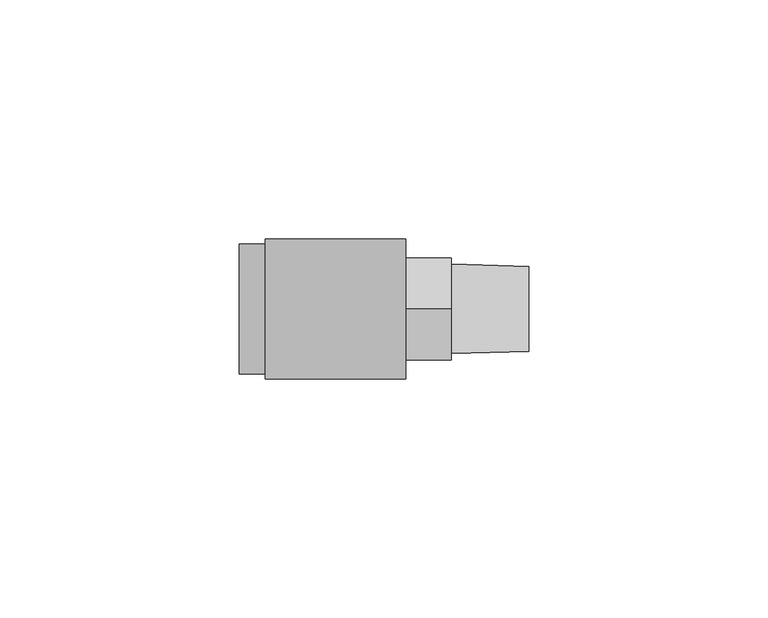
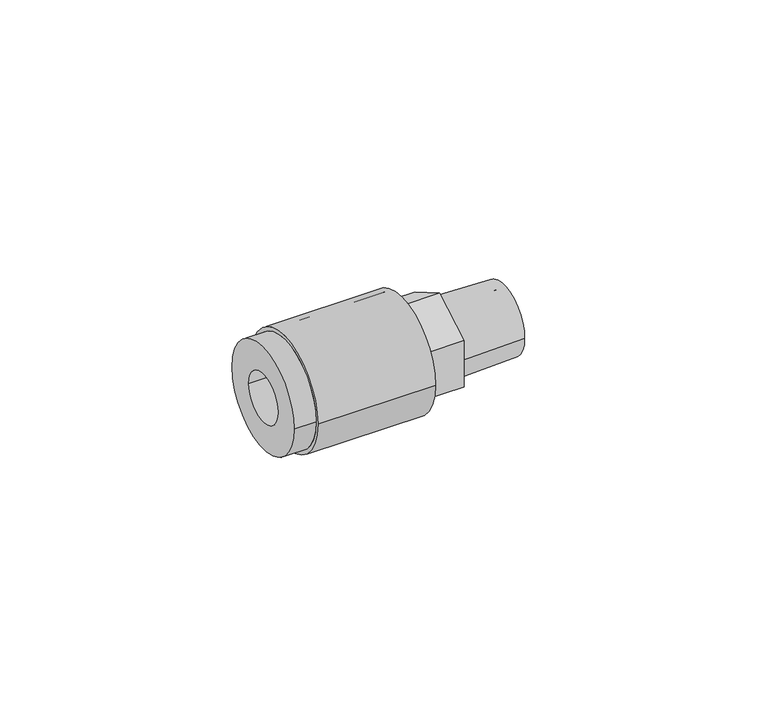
"""IFC4 building model written with IfcOpenShell, lengths in millimetres: pipe fitting geometry, Aquatherm - Fusion Outlet Transition Male : POTABLE BRASS - HEX."""

from ifc_helpers import new_model, si_unit, frame, origin, place, context, project, spatial, polyline, circle_curve, source, transform, mapped, element, save
from ifc_brep_helpers import plane_surface, cylinder_surface, revolved_surface, advanced_brep


def pipe_fitting_67bf35e6(model_context):
    return source(origin(), model_context, "Body", "AdvancedBrep", [
        advanced_brep(
        [(9.445625, 13.589, 0.0), (9.445625, -13.589, 0.0), (9.445625, 6.35, 0.0), (9.445625, -6.35, 0.0), (29.257625, 13.589, 0.0), (29.257625, -13.589, 0.0), (29.257625, 0.0, -12.3183453), (29.257625, -10.668, -6.1591727), (29.257625, -10.668, 6.1591727), (29.257625, 0.0, 12.3183453), (29.257625, 10.668, 6.1591727), (29.257625, 10.668, -6.1591727), (29.257625, 6.35, 0.0), (29.257625, -6.35, 0.0), (38.909625, 0.0, -12.3183453), (38.909625, 10.668, -6.1591727), (38.909625, 10.668, 6.1591727), (38.909625, 0.0, 12.3183453), (38.909625, -10.668, 6.1591727), (38.909625, -10.668, -6.1591727), (38.909625, 9.3810449, 0.0), (38.909625, -9.3810449, 0.0), (38.909625, 6.35, 0.0), (38.909625, -6.35, 0.0), (55.165625, -6.35, 0.0), (55.165625, 6.35, 0.0), (55.165625, -8.8752051, 0.0), (55.165625, 8.8752051, 0.0)],
        [
            (0, 1, circle_curve(frame((9.445625, 0.0, 0.0), z_axis=(-1.0, 0.0, 0.0), x_axis=(0.0, -1.0, 0.0)), 13.589)),
            (1, 0, circle_curve(frame((9.445625, 0.0, 0.0), z_axis=(-1.0, 0.0, 0.0), x_axis=(0.0, -1.0, 0.0)), 13.589)),
            (2, 3, circle_curve(frame((9.445625, 0.0, 0.0), z_axis=(1.0, 0.0, 0.0), x_axis=(0.0, -1.0, 0.0)), 6.35)),
            (3, 2, circle_curve(frame((9.445625, 0.0, 0.0), z_axis=(1.0, 0.0, 0.0), x_axis=(0.0, -1.0, 0.0)), 6.35)),
            (4, 5, circle_curve(frame((29.257625, 0.0, 0.0), z_axis=(1.0, 0.0, 0.0), x_axis=(0.0, -1.0, 0.0)), 13.589)),
            (5, 4, circle_curve(frame((29.257625, 0.0, 0.0), z_axis=(1.0, 0.0, 0.0), x_axis=(0.0, -1.0, 0.0)), 13.589)),
            (6, 7),
            (7, 8),
            (8, 9),
            (9, 10),
            (10, 11),
            (11, 6),
            (0, 4),
            (5, 1),
            (2, 12),
            (12, 13, circle_curve(frame((29.257625, 0.0, 0.0), z_axis=(1.0, 0.0, 0.0), x_axis=(0.0, -1.0, 0.0)), 6.35)),
            (13, 3),
            (13, 12, circle_curve(frame((29.257625, 0.0, 0.0), z_axis=(1.0, 0.0, 0.0), x_axis=(0.0, -1.0, 0.0)), 6.35)),
            (14, 15),
            (15, 16),
            (16, 17),
            (17, 18),
            (18, 19),
            (19, 14),
            (20, 21, circle_curve(frame((38.909625, 0.0, 0.0), z_axis=(-1.0, 0.0, 0.0), x_axis=(0.0, -1.0, 0.0)), 9.3810449)),
            (21, 20, circle_curve(frame((38.909625, 0.0, 0.0), z_axis=(-1.0, 0.0, 0.0), x_axis=(0.0, -1.0, 0.0)), 9.3810449)),
            (19, 7),
            (6, 14),
            (18, 8),
            (17, 9),
            (16, 10),
            (15, 11),
            (12, 22),
            (22, 23, circle_curve(frame((38.909625, 0.0, 0.0), z_axis=(1.0, 0.0, 0.0), x_axis=(0.0, -1.0, 0.0)), 6.35)),
            (23, 13),
            (23, 22, circle_curve(frame((38.909625, 0.0, 0.0), z_axis=(1.0, 0.0, 0.0), x_axis=(0.0, -1.0, 0.0)), 6.35)),
            (23, 24),
            (24, 25, circle_curve(frame((55.165625, 0.0, 0.0), z_axis=(1.0, 0.0, 0.0), x_axis=(0.0, -1.0, 0.0)), 6.35)),
            (25, 22),
            (25, 24, circle_curve(frame((55.165625, 0.0, 0.0), z_axis=(1.0, 0.0, 0.0), x_axis=(0.0, -1.0, 0.0)), 6.35)),
            (24, 26),
            (26, 27, circle_curve(frame((55.165625, 0.0, 0.0), z_axis=(1.0, 0.0, 0.0), x_axis=(0.0, -1.0, 0.0)), 8.8752051)),
            (27, 25),
            (27, 26, circle_curve(frame((55.165625, 0.0, 0.0), z_axis=(1.0, 0.0, 0.0), x_axis=(0.0, -1.0, 0.0)), 8.8752051)),
            (26, 21),
            (20, 27),
        ],
        [
            plane_surface(frame((9.445625, -13.589, 0.0), z_axis=(-1.0, 0.0, 0.0), x_axis=(0.0, 0.0, 1.0))),
            plane_surface(frame((29.257625, -13.589, 0.0), z_axis=(1.0, 0.0, 0.0), x_axis=(0.0, 0.0, -1.0))),
            cylinder_surface(frame((29.257625, 0.0, 0.0), z_axis=(-1.0, 0.0, 0.0), x_axis=(0.0, -1.0, 0.0)), 13.589),
            revolved_surface(polyline([(29.257625, -6.35, 0.0), (9.445625, -6.35, 0.0)]), (11.810406, 0.0, 0.0), (1.0, 0.0, 0.0)),
            plane_surface(frame((38.909625, 0.0, -12.3183453), z_axis=(1.0, 0.0, 0.0), x_axis=(0.0, 0.8660254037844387, -0.5))),
            plane_surface(frame((29.257625, 0.0, -12.3183453), z_axis=(0.0, -0.5, -0.8660254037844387), x_axis=(1.0, 0.0, 0.0))),
            plane_surface(frame((29.257625, -10.668, -6.1591727), z_axis=(0.0, -1.0, 0.0), x_axis=(1.0, 0.0, 0.0))),
            plane_surface(frame((29.257625, -10.668, 6.1591727), z_axis=(0.0, -0.49999999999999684, 0.8660254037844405), x_axis=(1.0, 0.0, 0.0))),
            plane_surface(frame((29.257625, 0.0, 12.3183453), z_axis=(0.0, 0.5000000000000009, 0.8660254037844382), x_axis=(1.0, 0.0, 0.0))),
            plane_surface(frame((29.257625, 10.668, 6.1591727), z_axis=(0.0, 1.0, 0.0), x_axis=(1.0, 0.0, 0.0))),
            plane_surface(frame((29.257625, 10.668, -6.1591727), z_axis=(0.0, 0.49999999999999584, -0.8660254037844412), x_axis=(1.0, 0.0, 0.0))),
            revolved_surface(polyline([(38.909625, -6.35, 0.0), (29.257625, -6.35, 0.0)]), (29.257625, 0.0, 0.0), (1.0, 0.0, 0.0)),
            revolved_surface(polyline([(55.165625, -6.35, 0.0), (38.909625, -6.35, 0.0)]), (90.0386938, 0.0, 0.0), (1.0, 0.0, 0.0)),
            plane_surface(frame((55.165625, 0.0, 0.0), z_axis=(1.0, 0.0, 0.0), x_axis=(0.0, -1.0, 0.0))),
            revolved_surface(polyline([(38.909625, -9.3810449, 0.0), (55.165625, -8.8752051, 0.0)]), (90.0386938, 0.0, 0.0), (1.0, 0.0, 0.0)),
        ],
        [
            (0, [[1, 2], [3, 4]]),
            (1, [[5, 6], [7, 8, 9, 10, 11, 12]]),
            (2, [[-1, 13, -6, 14]]),
            (2, [[-2, -14, -5, -13]]),
            (3, [[-3, 15, 16, 17]]),
            (3, [[-4, -17, 18, -15]]),
            (4, [[19, 20, 21, 22, 23, 24], [25, 26]]),
            (5, [[-24, 27, -7, 28]]),
            (6, [[-23, 29, -8, -27]]),
            (7, [[-22, 30, -9, -29]]),
            (8, [[-21, 31, -10, -30]]),
            (9, [[-20, 32, -11, -31]]),
            (10, [[-19, -28, -12, -32]]),
            (11, [[33, 34, 35, -16]]),
            (11, [[-33, -18, -35, 36]]),
            (12, [[37, 38, 39, -36]]),
            (12, [[-37, -34, -39, 40]]),
            (13, [[-38, 41, 42, 43]]),
            (13, [[-40, -43, 44, -41]]),
            (14, [[-42, 45, -25, 46]]),
            (14, [[-44, -46, -26, -45]]),
        ],
    ),
        advanced_brep(
        [(9.4257813, 13.5929688, 0.0), (9.4257813, -13.5929687, 0.0), (9.4257813, 6.35, 0.0), (9.4257813, -6.35, 0.0), (-5.4232432, -6.35, 0.0), (-5.4232432, 6.35, 0.0), (-5.4232432, -13.5929688, 0.0), (-5.4232432, 13.5929688, 0.0), (0.0, 13.5929688, 0.0), (0.0, -13.5929688, 0.0), (29.4441562, 14.6347656, 0.0), (29.4441562, -14.6347656, 0.0), (29.4441562, 13.5929688, 0.0), (29.4441562, -13.5929687, 0.0), (0.0, -14.6347656, 0.0), (0.0, 14.6347656, 0.0)],
        [
            (0, 1, circle_curve(frame((9.4257813, 0.0, 0.0), z_axis=(1.0, 0.0, 0.0), x_axis=(0.0, -1.0, 0.0)), 13.5929688)),
            (1, 0, circle_curve(frame((9.4257813, 0.0, 0.0), z_axis=(1.0, 0.0, 0.0), x_axis=(0.0, -1.0, 0.0)), 13.5929688)),
            (2, 3, circle_curve(frame((9.4257813, 0.0, 0.0), z_axis=(-1.0, 0.0, 0.0), x_axis=(0.0, -1.0, 0.0)), 6.35)),
            (3, 2, circle_curve(frame((9.4257813, 0.0, 0.0), z_axis=(-1.0, 0.0, 0.0), x_axis=(0.0, -1.0, 0.0)), 6.35)),
            (4, 5, circle_curve(frame((-5.4232432, 0.0, 0.0), z_axis=(-1.0, 0.0, 0.0), x_axis=(0.0, -1.0, 0.0)), 6.35)),
            (5, 2),
            (3, 4),
            (5, 4, circle_curve(frame((-5.4232432, 0.0, 0.0), z_axis=(-1.0, 0.0, 0.0), x_axis=(0.0, -1.0, 0.0)), 6.35)),
            (6, 7, circle_curve(frame((-5.4232432, 0.0, 0.0), z_axis=(1.0, 0.0, 0.0), x_axis=(0.0, -1.0, 0.0)), 13.5929688)),
            (7, 8),
            (8, 9, circle_curve(frame((0.0, 0.0, 0.0), z_axis=(-1.0, 0.0, 0.0), x_axis=(0.0, -1.0, 0.0)), 13.5929688)),
            (9, 6),
            (7, 6, circle_curve(frame((-5.4232432, 0.0, 0.0), z_axis=(1.0, 0.0, 0.0), x_axis=(0.0, -1.0, 0.0)), 13.5929688)),
            (9, 8, circle_curve(frame((0.0, 0.0, 0.0), z_axis=(-1.0, 0.0, 0.0), x_axis=(0.0, -1.0, 0.0)), 13.5929688)),
            (10, 11, circle_curve(frame((29.4441562, 0.0, 0.0), z_axis=(1.0, 0.0, 0.0), x_axis=(0.0, -1.0, 0.0)), 14.6347656)),
            (11, 10, circle_curve(frame((29.4441562, 0.0, 0.0), z_axis=(1.0, 0.0, 0.0), x_axis=(0.0, -1.0, 0.0)), 14.6347656)),
            (12, 13, circle_curve(frame((29.4441562, 0.0, 0.0), z_axis=(-1.0, 0.0, 0.0), x_axis=(0.0, -1.0, 0.0)), 13.5929688)),
            (13, 12, circle_curve(frame((29.4441562, 0.0, 0.0), z_axis=(-1.0, 0.0, 0.0), x_axis=(0.0, -1.0, 0.0)), 13.5929688)),
            (13, 1),
            (0, 12),
            (11, 14),
            (14, 15, circle_curve(frame((0.0, 0.0, 0.0), z_axis=(1.0, 0.0, 0.0), x_axis=(0.0, -1.0, 0.0)), 14.6347656)),
            (15, 10),
            (15, 14, circle_curve(frame((0.0, 0.0, 0.0), z_axis=(1.0, 0.0, 0.0), x_axis=(0.0, -1.0, 0.0)), 14.6347656)),
        ],
        [
            plane_surface(frame((9.4257813, -6.35, 0.0), z_axis=(1.0, 0.0, 0.0), x_axis=(0.0, 0.0, 1.0))),
            revolved_surface(polyline([(9.4257813, -6.35, 0.0), (-5.4232432, -6.35, 0.0)]), (9.4257813, 0.0, 0.0), (1.0, 0.0, 0.0)),
            cylinder_surface(frame((0.0, 0.0, 0.0), z_axis=(-1.0, 0.0, 0.0), x_axis=(0.0, -1.0, 0.0)), 13.5929688),
            plane_surface(frame((29.4441562, -13.5929687, 0.0), z_axis=(1.0, 0.0, 0.0), x_axis=(0.0, 0.0, 1.0))),
            revolved_surface(polyline([(29.4441562, -13.5929688, 0.0), (9.4257813, -13.5929688, 0.0)]), (29.4441562, 0.0, 0.0), (1.0, 0.0, 0.0)),
            cylinder_surface(frame((0.0, 0.0, 0.0), z_axis=(-1.0, 0.0, 0.0), x_axis=(0.0, -1.0, 0.0)), 14.6347656),
            plane_surface(frame((-5.4232432, -6.35, 0.0), z_axis=(-1.0, 0.0, 0.0), x_axis=(0.0, 0.0, -1.0))),
            plane_surface(frame((0.0, -13.5929687, 0.0), z_axis=(-1.0, 0.0, 0.0), x_axis=(0.0, 0.0, -1.0))),
        ],
        [
            (0, [[1, 2], [3, 4]]),
            (1, [[5, 6, -4, 7]]),
            (1, [[8, -7, -3, -6]]),
            (2, [[9, 10, 11, 12]]),
            (2, [[13, -12, 14, -10]]),
            (3, [[15, 16], [17, 18]]),
            (4, [[-18, 19, -1, 20]]),
            (4, [[-17, -20, -2, -19]]),
            (5, [[-16, 21, 22, 23]]),
            (5, [[-15, -23, 24, -21]]),
            (6, [[-9, -13], [-5, -8]]),
            (7, [[-22, -24], [-11, -14]]),
        ],
    ),
    ])


if __name__ == "__main__":
    model = new_model("IFC4")
    model_context = context("Model", 3, world=origin())
    ifc_project = project(units=[si_unit("LENGTHUNIT", "METRE", prefix="MILLI")], contexts=[model_context])
    site = spatial("IfcSite", under=ifc_project)
    building = spatial("IfcBuilding", under=site)
    placement = place(None, origin())
    pipe_fitting_shape = pipe_fitting_67bf35e6(model_context)
    element("IfcPipeFitting", 1, ObjectType="Aquatherm - Fusion Outlet Transition Male : POTABLE BRASS - HEX", at=placement, inside=building, context=model_context, shape_type="MappedRepresentation", body=[
        mapped(pipe_fitting_shape, transform((0.0, 0.0, 0.0), x_axis=(1.0, 0.0, 0.0), y_axis=(0.0, 1.0, 0.0), z_axis=(0.0, 0.0, 1.0))),
    ])
    save(model, "model.ifc")
